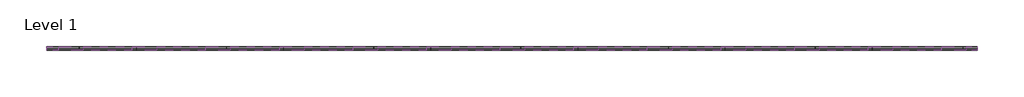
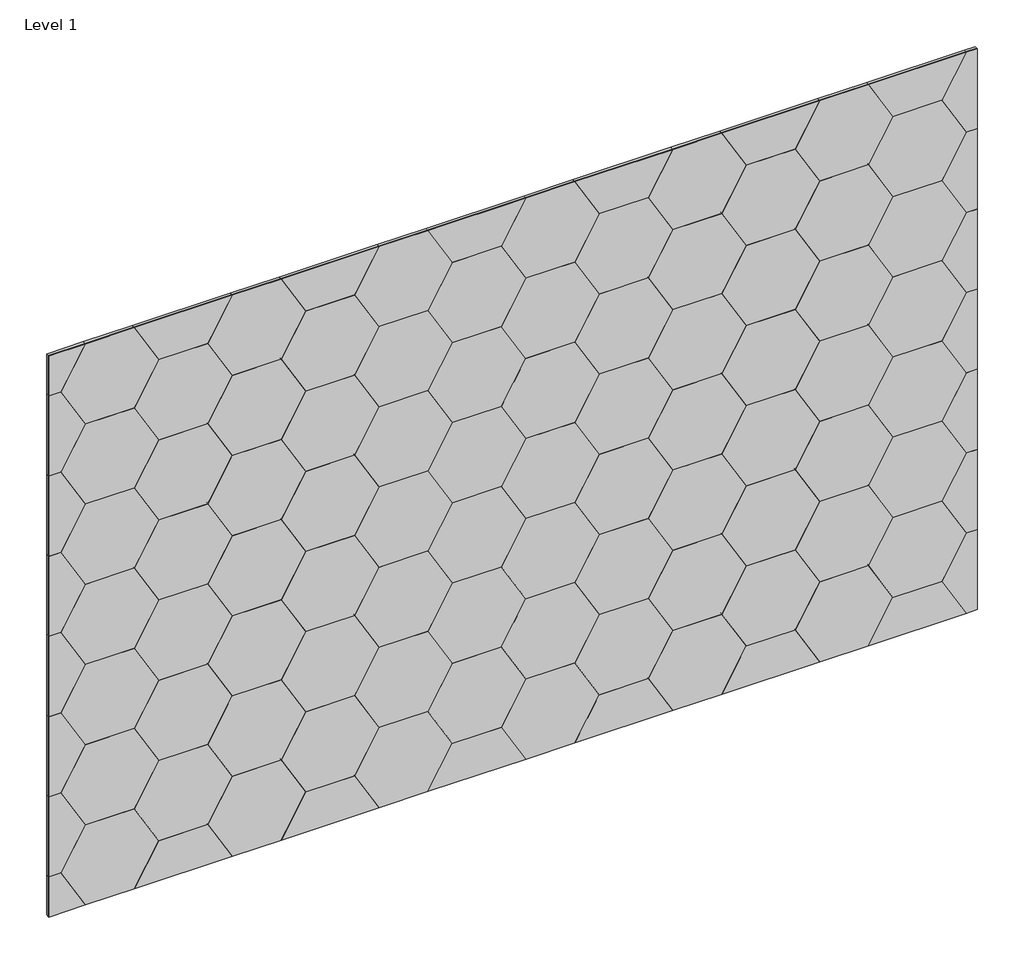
# One storey: 105 proxies.
"""IFC4 building model written with IfcOpenShell, lengths in millimetres."""

import ifcopenshell
import ifcopenshell.guid

model = None  # the IFC model being written
_history = None  # IfcOwnerHistory: only IFC2X3 demands one
_inside = {}  # id of a spatial element -> (the spatial element, [elements in it])
_under = {}  # id of a project, library or spatial element -> (it, [spatial elements below it])
_declared = {}  # id of a project -> (the project, [libraries it declares])
_typed = {}  # id of a type object -> (the type object, [elements of that type])
_made_of = {}  # id of a material, layer set ... -> (it, [elements and type objects made of it])


def new_model(schema):
    """Start an empty IFC model of exactly this schema.

    Asked for "IFC4X3", IfcOpenShell would pick the latest addendum, in which some entities
    have other attributes; the version numbers below select the first issue.
    IFC2X3 requires an IfcOwnerHistory on every rooted entity: one is made here for all.
    """
    global model, _history
    if schema == "IFC4X3":
        model = ifcopenshell.file(schema_version=(4, 3, 0, 0))
    else:
        model = ifcopenshell.file(schema=schema)
    _inside.clear()
    _under.clear()
    _declared.clear()
    _typed.clear()
    _made_of.clear()
    _history = None
    if model.schema == "IFC2X3":
        org = make("IfcOrganization", Name="unknown")
        user = make(
            "IfcPersonAndOrganization",
            ThePerson=make("IfcPerson", FamilyName="unknown"),
            TheOrganization=org,
        )
        app = make(
            "IfcApplication",
            ApplicationDeveloper=org,
            Version="unknown",
            ApplicationFullName="unknown",
            ApplicationIdentifier="unknown",
        )
        _history = make(
            "IfcOwnerHistory",
            OwningUser=user,
            OwningApplication=app,
            ChangeAction="ADDED",
            CreationDate=0,
        )
    return model


def make(cls, **values):
    """One entity of the class cls with the attributes given. An attribute that is None is left unset."""
    return model.create_entity(
        cls, **{name: value for name, value in values.items() if value is not None}
    )


def rooted(cls, **values):
    """An entity with a GlobalId (a new one), such as an element, a storey or a relation."""
    return make(cls, GlobalId=ifcopenshell.guid.new(), OwnerHistory=_history, **values)


def si_unit(unit_type, name, prefix=None):
    """IfcSIUnit, for example si_unit("LENGTHUNIT", "METRE", prefix="MILLI")."""
    return make("IfcSIUnit", UnitType=unit_type, Prefix=prefix, Name=name)


def assignment(units):
    """IfcUnitAssignment: the units of a project."""
    return None if units is None else make("IfcUnitAssignment", Units=units)


def point(xyz):
    """IfcCartesianPoint."""
    return None if xyz is None else make("IfcCartesianPoint", Coordinates=xyz)


def direction(xyz):
    """IfcDirection."""
    return None if xyz is None else make("IfcDirection", DirectionRatios=xyz)


def frame(location, z_axis=None, x_axis=None):
    """IfcAxis2Placement3D, a coordinate frame: its origin and axes. An axis left out is left unset."""
    return make(
        "IfcAxis2Placement3D",
        Location=point(location),
        Axis=direction(z_axis),
        RefDirection=direction(x_axis),
    )


def origin():
    """The frame at (0, 0, 0) with its axes left unset."""
    return frame((0.0, 0.0, 0.0))


def origin_with_axes():
    """The frame at (0, 0, 0) with the z axis (0, 0, 1) and the x axis (1, 0, 0) written out."""
    return frame((0.0, 0.0, 0.0), z_axis=(0.0, 0.0, 1.0), x_axis=(1.0, 0.0, 0.0))


def place(relative_to, where):
    """IfcLocalPlacement: puts the frame where relative to a parent placement (None: the world)."""
    return make(
        "IfcLocalPlacement", PlacementRelTo=relative_to, RelativePlacement=where
    )


def context(
    kind, dimensions, precision=None, world=None, true_north=None, identifier=None
):
    """IfcGeometricRepresentationContext, for example the 3D "Model" context."""
    return make(
        "IfcGeometricRepresentationContext",
        ContextIdentifier=identifier,
        ContextType=kind,
        CoordinateSpaceDimension=dimensions,
        Precision=precision,
        WorldCoordinateSystem=world,
        TrueNorth=true_north,
    )


def project(units=None, contexts=None):
    """IfcProject with its units and contexts."""
    return rooted(
        "IfcProject",
        Name="project",
        RepresentationContexts=contexts,
        UnitsInContext=assignment(units),
    )


def spatial(cls, under=None, at=None, **own):
    """A site, building, storey or space (cls), placed at a placement, below another one or the project."""
    s = rooted(cls, ObjectPlacement=at, **own)
    if under is not None:
        _under.setdefault(under.id(), (under, []))[1].append(s)
    return s


def polyline(points):
    """IfcPolyline through the points."""
    return make("IfcPolyline", Points=[point(p) for p in points])


def outline(outer, holes=None, kind="AREA"):
    """IfcArbitraryClosedProfileDef: a profile drawn as a closed curve; with holes, ...WithVoids."""
    if holes is None:
        return make("IfcArbitraryClosedProfileDef", ProfileType=kind, OuterCurve=outer)
    return make(
        "IfcArbitraryProfileDefWithVoids",
        ProfileType=kind,
        OuterCurve=outer,
        InnerCurves=holes,
    )


def extrude(swept, where, along, depth):
    """IfcExtrudedAreaSolid: the profile swept, set in the frame where, extruded along a direction by depth."""
    return make(
        "IfcExtrudedAreaSolid",
        SweptArea=swept,
        Position=where,
        ExtrudedDirection=direction(along),
        Depth=depth,
    )


def shape(context_of_items, identifier, shape_type, items):
    """IfcShapeRepresentation: the items that make up one representation, for example the "Body"."""
    return make(
        "IfcShapeRepresentation",
        ContextOfItems=context_of_items,
        RepresentationIdentifier=identifier,
        RepresentationType=shape_type,
        Items=items,
    )


def source(mapping_origin, context_of_items, identifier, shape_type, items):
    """IfcRepresentationMap: a shape defined once, which mapped items show again and again."""
    return make(
        "IfcRepresentationMap",
        MappingOrigin=mapping_origin,
        MappedRepresentation=shape(context_of_items, identifier, shape_type, items),
    )


def transform(
    local_origin,
    x_axis=None,
    y_axis=None,
    z_axis=None,
    scale=None,
    scale2=None,
    scale3=None,
    uniform=True,
):
    """IfcCartesianTransformationOperator3D, or its non-uniform kind. x_axis, y_axis, z_axis: its Axis1, 2, 3."""
    if uniform:
        return make(
            "IfcCartesianTransformationOperator3D",
            Axis1=direction(x_axis),
            Axis2=direction(y_axis),
            LocalOrigin=point(local_origin),
            Scale=scale,
            Axis3=direction(z_axis),
        )
    return make(
        "IfcCartesianTransformationOperator3DnonUniform",
        Axis1=direction(x_axis),
        Axis2=direction(y_axis),
        LocalOrigin=point(local_origin),
        Scale=scale,
        Axis3=direction(z_axis),
        Scale2=scale2,
        Scale3=scale3,
    )


def mapped(mapping_source, mapping_target):
    """IfcMappedItem: shows the shape of a source again, moved by a transform."""
    return make(
        "IfcMappedItem", MappingSource=mapping_source, MappingTarget=mapping_target
    )


def made_of(thing, what):
    """Note that an element or type object is made of a material, layer set ...; save() writes the relation."""
    if what is not None:
        _made_of.setdefault(what.id(), (what, []))[1].append(thing)
    return thing


def element(
    cls,
    number,
    at=None,
    inside=None,
    cuts=None,
    type_object=None,
    material=None,
    context=None,
    identifier="Body",
    shape_type=None,
    held_by="IfcProductDefinitionShape",
    body=None,
    shapes=None,
    **own,
):
    """One element of the class cls, such as IfcWall. Its Tag is "e" and its number.

    at: its placement. inside: the storey or other place that contains it. cuts: it is an
    opening in that element (IfcRelVoidsElement). A single representation is given by context,
    identifier, shape_type and body (its items); several are given by shapes. held_by: the class
    of the entity that holds the representations. save() writes the other relations.
    """
    e = rooted(cls, Tag="e%d" % number, ObjectPlacement=at, **own)
    if body is not None:
        shapes = [shape(context, identifier, shape_type, body)]
    if shapes is not None:
        e.Representation = make(held_by, Representations=shapes)
    if inside is not None:
        _inside.setdefault(inside.id(), (inside, []))[1].append(e)
    if cuts is not None:
        rooted(
            "IfcRelVoidsElement", RelatingBuildingElement=cuts, RelatedOpeningElement=e
        )
    if type_object is not None:
        _typed.setdefault(type_object.id(), (type_object, []))[1].append(e)
    return made_of(e, material)


def aggregate(whole, parts):
    """IfcRelAggregates: a whole, such as a stair, and the parts it consists of."""
    return rooted("IfcRelAggregates", RelatingObject=whole, RelatedObjects=parts)


def save(model, path):
    """Write the relations noted so far, then the file.

    IfcRelAggregates (storeys below a building ...), IfcRelContainedInSpatialStructure (elements
    in a storey), IfcRelDefinesByType, IfcRelAssociatesMaterial and IfcRelDeclares: one each for
    every whole, place, type object, material and project.
    """
    for whole, parts in _under.values():
        aggregate(whole, parts)
    for where, things in _inside.values():
        rooted(
            "IfcRelContainedInSpatialStructure",
            RelatedElements=things,
            RelatingStructure=where,
        )
    for kind, things in _typed.values():
        rooted("IfcRelDefinesByType", RelatedObjects=things, RelatingType=kind)
    for what, things in _made_of.values():
        rooted("IfcRelAssociatesMaterial", RelatedObjects=things, RelatingMaterial=what)
    for by, libraries in _declared.values():
        rooted("IfcRelDeclares", RelatingContext=by, RelatedDefinitions=libraries)
    model.write(path)


def hex_block_e6388045(model_context):
    return source(origin(), model_context, "Body", "SweptSolid", [
        extrude(outline(polyline([(87.988181, 152.4), (175.976362, 0.0), (87.988181, -152.4), (44.2024582, -152.4), (44.2024582, 152.4), (87.988181, 152.4)])), frame((0.0, 0.0, 10.0210937), z_axis=(0.0, 0.0, 1.0), x_axis=(1.0, 0.0, 0.0)), (0.0, 0.0, 1.0), 2.9765625),
        extrude(outline(polyline([(175.976362, 0.0), (87.988181, -152.4), (44.2024582, -152.4), (44.2024582, 152.4), (87.988181, 152.4), (175.976362, 0.0)])), origin_with_axes(), (0.0, 0.0, 1.0), 10.0210938),
    ])


def hex_block_89ee5a11(model_context):
    return source(origin(), model_context, "Body", "SweptSolid", [
        extrude(outline(polyline([(-175.976362, 0.0), (-87.988181, 152.4), (87.988181, 152.4), (175.976362, 0.0), (87.988181, -152.4), (-87.988181, -152.4), (-175.976362, 0.0)])), frame((0.0, 0.0, 10.0210937), z_axis=(0.0, 0.0, 1.0), x_axis=(1.0, 0.0, 0.0)), (0.0, 0.0, 1.0), 2.9765625),
        extrude(outline(polyline([(175.976362, 0.0), (87.988181, -152.4), (-87.988181, -152.4), (-175.976362, 0.0), (-87.988181, 152.4), (87.988181, 152.4), (175.976362, 0.0)])), origin_with_axes(), (0.0, 0.0, 1.0), 10.0210938),
    ])


def hex_block_60d278a7(model_context):
    return source(origin(), model_context, "Body", "SweptSolid", [
        extrude(outline(polyline([(175.976362, 0.0), (87.988181, -152.4), (44.2024582, -152.4), (44.2024582, 0.0), (175.976362, 0.0)])), frame((0.0, 0.0, 10.0210937), z_axis=(0.0, 0.0, 1.0), x_axis=(1.0, 0.0, 0.0)), (0.0, 0.0, 1.0), 2.9765625),
        extrude(outline(polyline([(175.976362, 0.0), (87.988181, -152.4), (44.2024582, -152.4), (44.2024582, 0.0), (175.976362, 0.0)])), origin_with_axes(), (0.0, 0.0, 1.0), 10.0210938),
    ])


def hex_block_f7c1a38d(model_context):
    return source(origin(), model_context, "Body", "SweptSolid", [
        extrude(outline(polyline([(175.976362, 0.0), (87.988181, -152.4), (-87.988181, -152.4), (-175.976362, 0.0), (175.976362, 0.0)])), frame((0.0, 0.0, 10.0210937), z_axis=(0.0, 0.0, 1.0), x_axis=(1.0, 0.0, 0.0)), (0.0, 0.0, 1.0), 2.9765625),
        extrude(outline(polyline([(175.976362, 0.0), (87.988181, -152.4), (-87.988181, -152.4), (-175.976362, 0.0), (175.976362, 0.0)])), origin_with_axes(), (0.0, 0.0, 1.0), 10.0210938),
    ])


def hex_block_ed516149(model_context):
    return source(origin(), model_context, "Body", "SweptSolid", [
        extrude(outline(polyline([(-175.976362, 0.0), (-87.988181, 152.4), (87.988181, 152.4), (175.976362, 0.0), (-175.976362, 0.0)])), frame((0.0, 0.0, 10.0210937), z_axis=(0.0, 0.0, 1.0), x_axis=(1.0, 0.0, 0.0)), (0.0, 0.0, 1.0), 2.9765625),
        extrude(outline(polyline([(-175.976362, 0.0), (-87.988181, 152.4), (87.988181, 152.4), (175.976362, 0.0), (-175.976362, 0.0)])), origin_with_axes(), (0.0, 0.0, 1.0), 10.0210938),
    ])


def hex_block_761645ae(model_context):
    return source(origin(), model_context, "Body", "SweptSolid", [
        extrude(outline(polyline([(-175.976362, 0.0), (-87.988181, 152.4), (-48.2369948, 152.4), (-48.2369948, -152.4), (-87.988181, -152.4), (-175.976362, 0.0)])), frame((0.0, 0.0, 10.0210937), z_axis=(0.0, 0.0, 1.0), x_axis=(1.0, 0.0, 0.0)), (0.0, 0.0, 1.0), 2.9765625),
        extrude(outline(polyline([(-87.988181, -152.4), (-175.976362, 0.0), (-87.988181, 152.4), (-48.2369948, 152.4), (-48.2369948, -152.4), (-87.988181, -152.4)])), origin_with_axes(), (0.0, 0.0, 1.0), 10.0210938),
    ])


def hex_block_e8bb8b6b(model_context):
    return source(origin(), model_context, "Body", "SweptSolid", [
        extrude(outline(polyline([(87.988181, 152.4), (175.976362, 0.0), (44.2024582, 0.0), (44.2024582, 152.4), (87.988181, 152.4)])), frame((0.0, 0.0, 10.0210937), z_axis=(0.0, 0.0, 1.0), x_axis=(1.0, 0.0, 0.0)), (0.0, 0.0, 1.0), 2.9765625),
        extrude(outline(polyline([(87.988181, 152.4), (175.976362, 0.0), (44.2024582, 0.0), (44.2024582, 152.4), (87.988181, 152.4)])), origin_with_axes(), (0.0, 0.0, 1.0), 10.0210938),
    ])


model = new_model("IFC4")

# Units and contexts
model_context = context("Model", 3, world=origin())
ifc_project = project(units=[si_unit("LENGTHUNIT", "METRE", prefix="MILLI")], contexts=[model_context])

# Site, building, storey
site = spatial("IfcSite", under=ifc_project)
building = spatial("IfcBuilding", under=site)
storey = spatial("IfcBuildingStorey", under=building, Name="Level 1", Elevation=0.0)

# Proxies
placement = place(None, origin())
hex_block_shape = hex_block_e6388045(model_context)
element("IfcBuildingElementProxy", 1, Name="FilzFelt_Hex_Block : Hex Block", ObjectType="FilzFelt_Hex_Block : Hex Block", at=placement, inside=storey, context=model_context, shape_type="MappedRepresentation", body=[
    mapped(hex_block_shape, transform((28831.2237025, 4010.4660665, 1480.8), x_axis=(1.0, 0.0, 0.0), y_axis=(0.0, 0.0, 1.0), z_axis=(0.0, -1.0, 0.0))),
])
element("IfcBuildingElementProxy", 2, Name="FilzFelt_Hex_Block : Hex Block", ObjectType="FilzFelt_Hex_Block : Hex Block", at=placement, inside=storey, context=model_context, shape_type="MappedRepresentation", body=[
    mapped(hex_block_shape, transform((28831.2237025, 4010.4660665, 2395.2), x_axis=(1.0, 0.0, 0.0), y_axis=(0.0, 0.0, 1.0), z_axis=(0.0, -1.0, 0.0))),
])
element("IfcBuildingElementProxy", 3, Name="FilzFelt_Hex_Block : Hex Block", ObjectType="FilzFelt_Hex_Block : Hex Block", at=placement, inside=storey, context=model_context, shape_type="MappedRepresentation", body=[
    mapped(hex_block_shape, transform((28831.2237025, 4010.4660665, 871.2), x_axis=(1.0, 0.0, 0.0), y_axis=(0.0, 0.0, 1.0), z_axis=(0.0, -1.0, 0.0))),
])
element("IfcBuildingElementProxy", 4, Name="FilzFelt_Hex_Block : Hex Block", ObjectType="FilzFelt_Hex_Block : Hex Block", at=placement, inside=storey, context=model_context, shape_type="MappedRepresentation", body=[
    mapped(hex_block_shape, transform((28831.2237025, 4010.4660665, 1785.6), x_axis=(1.0, 0.0, 0.0), y_axis=(0.0, 0.0, 1.0), z_axis=(0.0, -1.0, 0.0))),
])
element("IfcBuildingElementProxy", 5, Name="FilzFelt_Hex_Block : Hex Block", ObjectType="FilzFelt_Hex_Block : Hex Block", at=placement, inside=storey, context=model_context, shape_type="MappedRepresentation", body=[
    mapped(hex_block_shape, transform((28831.2237025, 4010.4660665, 1176.0), x_axis=(1.0, 0.0, 0.0), y_axis=(0.0, 0.0, 1.0), z_axis=(0.0, -1.0, 0.0))),
])
element("IfcBuildingElementProxy", 6, Name="FilzFelt_Hex_Block : Hex Block", ObjectType="FilzFelt_Hex_Block : Hex Block", at=placement, inside=storey, context=model_context, shape_type="MappedRepresentation", body=[
    mapped(hex_block_shape, transform((28831.2237025, 4010.4660665, 2090.4), x_axis=(1.0, 0.0, 0.0), y_axis=(0.0, 0.0, 1.0), z_axis=(0.0, -1.0, 0.0))),
])
hex_block_2_shape = hex_block_89ee5a11(model_context)
element("IfcBuildingElementProxy", 7, Name="FilzFelt_Hex_Block : Hex Block", ObjectType="FilzFelt_Hex_Block : Hex Block", at=placement, inside=storey, context=model_context, shape_type="MappedRepresentation", body=[
    mapped(hex_block_2_shape, transform((29095.1882456, 4010.4660665, 1023.6), x_axis=(1.0, 0.0, 0.0), y_axis=(0.0, 0.0, 1.0), z_axis=(0.0, -1.0, 0.0))),
])
element("IfcBuildingElementProxy", 8, Name="FilzFelt_Hex_Block : Hex Block", ObjectType="FilzFelt_Hex_Block : Hex Block", at=placement, inside=storey, context=model_context, shape_type="MappedRepresentation", body=[
    mapped(hex_block_2_shape, transform((29095.1882456, 4010.4660665, 1328.4), x_axis=(1.0, 0.0, 0.0), y_axis=(0.0, 0.0, 1.0), z_axis=(0.0, -1.0, 0.0))),
])
element("IfcBuildingElementProxy", 9, Name="FilzFelt_Hex_Block : Hex Block", ObjectType="FilzFelt_Hex_Block : Hex Block", at=placement, inside=storey, context=model_context, shape_type="MappedRepresentation", body=[
    mapped(hex_block_2_shape, transform((29095.1882456, 4010.4660665, 1938.0), x_axis=(1.0, 0.0, 0.0), y_axis=(0.0, 0.0, 1.0), z_axis=(0.0, -1.0, 0.0))),
])
element("IfcBuildingElementProxy", 10, Name="FilzFelt_Hex_Block : Hex Block", ObjectType="FilzFelt_Hex_Block : Hex Block", at=placement, inside=storey, context=model_context, shape_type="MappedRepresentation", body=[
    mapped(hex_block_2_shape, transform((29359.1527887, 4010.4660665, 1785.6), x_axis=(1.0, 0.0, 0.0), y_axis=(0.0, 0.0, 1.0), z_axis=(0.0, -1.0, 0.0))),
])
element("IfcBuildingElementProxy", 11, Name="FilzFelt_Hex_Block : Hex Block", ObjectType="FilzFelt_Hex_Block : Hex Block", at=placement, inside=storey, context=model_context, shape_type="MappedRepresentation", body=[
    mapped(hex_block_2_shape, transform((29623.1173317, 4010.4660665, 1633.2), x_axis=(1.0, 0.0, 0.0), y_axis=(0.0, 0.0, 1.0), z_axis=(0.0, -1.0, 0.0))),
])
element("IfcBuildingElementProxy", 12, Name="FilzFelt_Hex_Block : Hex Block", ObjectType="FilzFelt_Hex_Block : Hex Block", at=placement, inside=storey, context=model_context, shape_type="MappedRepresentation", body=[
    mapped(hex_block_2_shape, transform((29887.0818748, 4010.4660665, 1480.8), x_axis=(1.0, 0.0, 0.0), y_axis=(0.0, 0.0, 1.0), z_axis=(0.0, -1.0, 0.0))),
])
element("IfcBuildingElementProxy", 13, Name="FilzFelt_Hex_Block : Hex Block", ObjectType="FilzFelt_Hex_Block : Hex Block", at=placement, inside=storey, context=model_context, shape_type="MappedRepresentation", body=[
    mapped(hex_block_2_shape, transform((30151.0464179, 4010.4660665, 1023.6), x_axis=(1.0, 0.0, 0.0), y_axis=(0.0, 0.0, 1.0), z_axis=(0.0, -1.0, 0.0))),
])
element("IfcBuildingElementProxy", 14, Name="FilzFelt_Hex_Block : Hex Block", ObjectType="FilzFelt_Hex_Block : Hex Block", at=placement, inside=storey, context=model_context, shape_type="MappedRepresentation", body=[
    mapped(hex_block_2_shape, transform((30151.0464179, 4010.4660665, 1328.4), x_axis=(1.0, 0.0, 0.0), y_axis=(0.0, 0.0, 1.0), z_axis=(0.0, -1.0, 0.0))),
])
element("IfcBuildingElementProxy", 15, Name="FilzFelt_Hex_Block : Hex Block", ObjectType="FilzFelt_Hex_Block : Hex Block", at=placement, inside=storey, context=model_context, shape_type="MappedRepresentation", body=[
    mapped(hex_block_2_shape, transform((30151.0464179, 4010.4660665, 1633.2), x_axis=(1.0, 0.0, 0.0), y_axis=(0.0, 0.0, 1.0), z_axis=(0.0, -1.0, 0.0))),
])
element("IfcBuildingElementProxy", 16, Name="FilzFelt_Hex_Block : Hex Block", ObjectType="FilzFelt_Hex_Block : Hex Block", at=placement, inside=storey, context=model_context, shape_type="MappedRepresentation", body=[
    mapped(hex_block_2_shape, transform((30151.0464179, 4010.4660665, 1938.0), x_axis=(1.0, 0.0, 0.0), y_axis=(0.0, 0.0, 1.0), z_axis=(0.0, -1.0, 0.0))),
])
element("IfcBuildingElementProxy", 17, Name="FilzFelt_Hex_Block : Hex Block", ObjectType="FilzFelt_Hex_Block : Hex Block", at=placement, inside=storey, context=model_context, shape_type="MappedRepresentation", body=[
    mapped(hex_block_2_shape, transform((30415.010961, 4010.4660665, 1480.8), x_axis=(1.0, 0.0, 0.0), y_axis=(0.0, 0.0, 1.0), z_axis=(0.0, -1.0, 0.0))),
])
element("IfcBuildingElementProxy", 18, Name="FilzFelt_Hex_Block : Hex Block", ObjectType="FilzFelt_Hex_Block : Hex Block", at=placement, inside=storey, context=model_context, shape_type="MappedRepresentation", body=[
    mapped(hex_block_2_shape, transform((30678.975504, 4010.4660665, 1633.2), x_axis=(1.0, 0.0, 0.0), y_axis=(0.0, 0.0, 1.0), z_axis=(0.0, -1.0, 0.0))),
])
element("IfcBuildingElementProxy", 19, Name="FilzFelt_Hex_Block : Hex Block", ObjectType="FilzFelt_Hex_Block : Hex Block", at=placement, inside=storey, context=model_context, shape_type="MappedRepresentation", body=[
    mapped(hex_block_2_shape, transform((30678.975504, 4010.4660665, 1938.0), x_axis=(1.0, 0.0, 0.0), y_axis=(0.0, 0.0, 1.0), z_axis=(0.0, -1.0, 0.0))),
])
element("IfcBuildingElementProxy", 20, Name="FilzFelt_Hex_Block : Hex Block", ObjectType="FilzFelt_Hex_Block : Hex Block", at=placement, inside=storey, context=model_context, shape_type="MappedRepresentation", body=[
    mapped(hex_block_2_shape, transform((30942.9400471, 4010.4660665, 1480.8), x_axis=(1.0, 0.0, 0.0), y_axis=(0.0, 0.0, 1.0), z_axis=(0.0, -1.0, 0.0))),
])
element("IfcBuildingElementProxy", 21, Name="FilzFelt_Hex_Block : Hex Block", ObjectType="FilzFelt_Hex_Block : Hex Block", at=placement, inside=storey, context=model_context, shape_type="MappedRepresentation", body=[
    mapped(hex_block_2_shape, transform((30942.9400471, 4010.4660665, 1785.6), x_axis=(1.0, 0.0, 0.0), y_axis=(0.0, 0.0, 1.0), z_axis=(0.0, -1.0, 0.0))),
])
element("IfcBuildingElementProxy", 22, Name="FilzFelt_Hex_Block : Hex Block", ObjectType="FilzFelt_Hex_Block : Hex Block", at=placement, inside=storey, context=model_context, shape_type="MappedRepresentation", body=[
    mapped(hex_block_2_shape, transform((31206.9045902, 4010.4660665, 1023.6), x_axis=(1.0, 0.0, 0.0), y_axis=(0.0, 0.0, 1.0), z_axis=(0.0, -1.0, 0.0))),
])
element("IfcBuildingElementProxy", 23, Name="FilzFelt_Hex_Block : Hex Block", ObjectType="FilzFelt_Hex_Block : Hex Block", at=placement, inside=storey, context=model_context, shape_type="MappedRepresentation", body=[
    mapped(hex_block_2_shape, transform((31206.9045902, 4010.4660665, 1633.2), x_axis=(1.0, 0.0, 0.0), y_axis=(0.0, 0.0, 1.0), z_axis=(0.0, -1.0, 0.0))),
])
element("IfcBuildingElementProxy", 24, Name="FilzFelt_Hex_Block : Hex Block", ObjectType="FilzFelt_Hex_Block : Hex Block", at=placement, inside=storey, context=model_context, shape_type="MappedRepresentation", body=[
    mapped(hex_block_2_shape, transform((29095.1882456, 4010.4660665, 2547.6), x_axis=(1.0, 0.0, 0.0), y_axis=(0.0, 0.0, 1.0), z_axis=(0.0, -1.0, 0.0))),
])
element("IfcBuildingElementProxy", 25, Name="FilzFelt_Hex_Block : Hex Block", ObjectType="FilzFelt_Hex_Block : Hex Block", at=placement, inside=storey, context=model_context, shape_type="MappedRepresentation", body=[
    mapped(hex_block_2_shape, transform((29359.1527887, 4010.4660665, 2395.2), x_axis=(1.0, 0.0, 0.0), y_axis=(0.0, 0.0, 1.0), z_axis=(0.0, -1.0, 0.0))),
])
element("IfcBuildingElementProxy", 26, Name="FilzFelt_Hex_Block : Hex Block", ObjectType="FilzFelt_Hex_Block : Hex Block", at=placement, inside=storey, context=model_context, shape_type="MappedRepresentation", body=[
    mapped(hex_block_2_shape, transform((29887.0818748, 4010.4660665, 2395.2), x_axis=(1.0, 0.0, 0.0), y_axis=(0.0, 0.0, 1.0), z_axis=(0.0, -1.0, 0.0))),
])
element("IfcBuildingElementProxy", 27, Name="FilzFelt_Hex_Block : Hex Block", ObjectType="FilzFelt_Hex_Block : Hex Block", at=placement, inside=storey, context=model_context, shape_type="MappedRepresentation", body=[
    mapped(hex_block_2_shape, transform((30942.9400471, 4010.4660665, 2395.2), x_axis=(1.0, 0.0, 0.0), y_axis=(0.0, 0.0, 1.0), z_axis=(0.0, -1.0, 0.0))),
])
element("IfcBuildingElementProxy", 28, Name="FilzFelt_Hex_Block : Hex Block", ObjectType="FilzFelt_Hex_Block : Hex Block", at=placement, inside=storey, context=model_context, shape_type="MappedRepresentation", body=[
    mapped(hex_block_2_shape, transform((31206.9045902, 4010.4660665, 2547.6), x_axis=(1.0, 0.0, 0.0), y_axis=(0.0, 0.0, 1.0), z_axis=(0.0, -1.0, 0.0))),
])
element("IfcBuildingElementProxy", 29, Name="FilzFelt_Hex_Block : Hex Block", ObjectType="FilzFelt_Hex_Block : Hex Block", at=placement, inside=storey, context=model_context, shape_type="MappedRepresentation", body=[
    mapped(hex_block_2_shape, transform((31470.8691332, 4010.4660665, 2395.2), x_axis=(1.0, 0.0, 0.0), y_axis=(0.0, 0.0, 1.0), z_axis=(0.0, -1.0, 0.0))),
])
element("IfcBuildingElementProxy", 30, Name="FilzFelt_Hex_Block : Hex Block", ObjectType="FilzFelt_Hex_Block : Hex Block", at=placement, inside=storey, context=model_context, shape_type="MappedRepresentation", body=[
    mapped(hex_block_2_shape, transform((30415.010961, 4010.4660665, 1176.0), x_axis=(1.0, 0.0, 0.0), y_axis=(0.0, 0.0, 1.0), z_axis=(0.0, -1.0, 0.0))),
])
element("IfcBuildingElementProxy", 31, Name="FilzFelt_Hex_Block : Hex Block", ObjectType="FilzFelt_Hex_Block : Hex Block", at=placement, inside=storey, context=model_context, shape_type="MappedRepresentation", body=[
    mapped(hex_block_2_shape, transform((30942.9400471, 4010.4660665, 1176.0), x_axis=(1.0, 0.0, 0.0), y_axis=(0.0, 0.0, 1.0), z_axis=(0.0, -1.0, 0.0))),
])
element("IfcBuildingElementProxy", 32, Name="FilzFelt_Hex_Block : Hex Block", ObjectType="FilzFelt_Hex_Block : Hex Block", at=placement, inside=storey, context=model_context, shape_type="MappedRepresentation", body=[
    mapped(hex_block_2_shape, transform((31470.8691332, 4010.4660665, 1176.0), x_axis=(1.0, 0.0, 0.0), y_axis=(0.0, 0.0, 1.0), z_axis=(0.0, -1.0, 0.0))),
])
element("IfcBuildingElementProxy", 33, Name="FilzFelt_Hex_Block : Hex Block", ObjectType="FilzFelt_Hex_Block : Hex Block", at=placement, inside=storey, context=model_context, shape_type="MappedRepresentation", body=[
    mapped(hex_block_2_shape, transform((29359.1527887, 4010.4660665, 2090.4), x_axis=(1.0, 0.0, 0.0), y_axis=(0.0, 0.0, 1.0), z_axis=(0.0, -1.0, 0.0))),
])
element("IfcBuildingElementProxy", 34, Name="FilzFelt_Hex_Block : Hex Block", ObjectType="FilzFelt_Hex_Block : Hex Block", at=placement, inside=storey, context=model_context, shape_type="MappedRepresentation", body=[
    mapped(hex_block_2_shape, transform((29887.0818748, 4010.4660665, 2090.4), x_axis=(1.0, 0.0, 0.0), y_axis=(0.0, 0.0, 1.0), z_axis=(0.0, -1.0, 0.0))),
])
element("IfcBuildingElementProxy", 35, Name="FilzFelt_Hex_Block : Hex Block", ObjectType="FilzFelt_Hex_Block : Hex Block", at=placement, inside=storey, context=model_context, shape_type="MappedRepresentation", body=[
    mapped(hex_block_2_shape, transform((30415.010961, 4010.4660665, 2090.4), x_axis=(1.0, 0.0, 0.0), y_axis=(0.0, 0.0, 1.0), z_axis=(0.0, -1.0, 0.0))),
])
element("IfcBuildingElementProxy", 36, Name="FilzFelt_Hex_Block : Hex Block", ObjectType="FilzFelt_Hex_Block : Hex Block", at=placement, inside=storey, context=model_context, shape_type="MappedRepresentation", body=[
    mapped(hex_block_2_shape, transform((30942.9400471, 4010.4660665, 2090.4), x_axis=(1.0, 0.0, 0.0), y_axis=(0.0, 0.0, 1.0), z_axis=(0.0, -1.0, 0.0))),
])
element("IfcBuildingElementProxy", 37, Name="FilzFelt_Hex_Block : Hex Block", ObjectType="FilzFelt_Hex_Block : Hex Block", at=placement, inside=storey, context=model_context, shape_type="MappedRepresentation", body=[
    mapped(hex_block_2_shape, transform((31470.8691332, 4010.4660665, 2090.4), x_axis=(1.0, 0.0, 0.0), y_axis=(0.0, 0.0, 1.0), z_axis=(0.0, -1.0, 0.0))),
])
element("IfcBuildingElementProxy", 38, Name="FilzFelt_Hex_Block : Hex Block", ObjectType="FilzFelt_Hex_Block : Hex Block", at=placement, inside=storey, context=model_context, shape_type="MappedRepresentation", body=[
    mapped(hex_block_2_shape, transform((29359.1527887, 4010.4660665, 871.2), x_axis=(1.0, 0.0, 0.0), y_axis=(0.0, 0.0, 1.0), z_axis=(0.0, -1.0, 0.0))),
])
element("IfcBuildingElementProxy", 39, Name="FilzFelt_Hex_Block : Hex Block", ObjectType="FilzFelt_Hex_Block : Hex Block", at=placement, inside=storey, context=model_context, shape_type="MappedRepresentation", body=[
    mapped(hex_block_2_shape, transform((29887.0818748, 4010.4660665, 871.2), x_axis=(1.0, 0.0, 0.0), y_axis=(0.0, 0.0, 1.0), z_axis=(0.0, -1.0, 0.0))),
])
element("IfcBuildingElementProxy", 40, Name="FilzFelt_Hex_Block : Hex Block", ObjectType="FilzFelt_Hex_Block : Hex Block", at=placement, inside=storey, context=model_context, shape_type="MappedRepresentation", body=[
    mapped(hex_block_2_shape, transform((30942.9400471, 4010.4660665, 871.2), x_axis=(1.0, 0.0, 0.0), y_axis=(0.0, 0.0, 1.0), z_axis=(0.0, -1.0, 0.0))),
])
element("IfcBuildingElementProxy", 41, Name="FilzFelt_Hex_Block : Hex Block", ObjectType="FilzFelt_Hex_Block : Hex Block", at=placement, inside=storey, context=model_context, shape_type="MappedRepresentation", body=[
    mapped(hex_block_2_shape, transform((31734.8336763, 4010.4660665, 1633.2), x_axis=(1.0, 0.0, 0.0), y_axis=(0.0, 0.0, 1.0), z_axis=(0.0, -1.0, 0.0))),
])
element("IfcBuildingElementProxy", 42, Name="FilzFelt_Hex_Block : Hex Block", ObjectType="FilzFelt_Hex_Block : Hex Block", at=placement, inside=storey, context=model_context, shape_type="MappedRepresentation", body=[
    mapped(hex_block_2_shape, transform((31734.8336763, 4010.4660665, 1938.0), x_axis=(1.0, 0.0, 0.0), y_axis=(0.0, 0.0, 1.0), z_axis=(0.0, -1.0, 0.0))),
])
element("IfcBuildingElementProxy", 43, Name="FilzFelt_Hex_Block : Hex Block", ObjectType="FilzFelt_Hex_Block : Hex Block", at=placement, inside=storey, context=model_context, shape_type="MappedRepresentation", body=[
    mapped(hex_block_2_shape, transform((31998.7982194, 4010.4660665, 1785.6), x_axis=(1.0, 0.0, 0.0), y_axis=(0.0, 0.0, 1.0), z_axis=(0.0, -1.0, 0.0))),
])
element("IfcBuildingElementProxy", 44, Name="FilzFelt_Hex_Block : Hex Block", ObjectType="FilzFelt_Hex_Block : Hex Block", at=placement, inside=storey, context=model_context, shape_type="MappedRepresentation", body=[
    mapped(hex_block_2_shape, transform((31998.7982194, 4010.4660665, 2395.2), x_axis=(1.0, 0.0, 0.0), y_axis=(0.0, 0.0, 1.0), z_axis=(0.0, -1.0, 0.0))),
])
element("IfcBuildingElementProxy", 45, Name="FilzFelt_Hex_Block : Hex Block", ObjectType="FilzFelt_Hex_Block : Hex Block", at=placement, inside=storey, context=model_context, shape_type="MappedRepresentation", body=[
    mapped(hex_block_2_shape, transform((31998.7982194, 4010.4660665, 1176.0), x_axis=(1.0, 0.0, 0.0), y_axis=(0.0, 0.0, 1.0), z_axis=(0.0, -1.0, 0.0))),
])
element("IfcBuildingElementProxy", 46, Name="FilzFelt_Hex_Block : Hex Block", ObjectType="FilzFelt_Hex_Block : Hex Block", at=placement, inside=storey, context=model_context, shape_type="MappedRepresentation", body=[
    mapped(hex_block_2_shape, transform((31998.7982194, 4010.4660665, 871.2), x_axis=(1.0, 0.0, 0.0), y_axis=(0.0, 0.0, 1.0), z_axis=(0.0, -1.0, 0.0))),
])
element("IfcBuildingElementProxy", 47, Name="FilzFelt_Hex_Block : Hex Block", ObjectType="FilzFelt_Hex_Block : Hex Block", at=placement, inside=storey, context=model_context, shape_type="MappedRepresentation", body=[
    mapped(hex_block_2_shape, transform((30151.0464179, 4010.4660665, 718.8), x_axis=(1.0, 0.0, 0.0), y_axis=(0.0, 0.0, 1.0), z_axis=(0.0, -1.0, 0.0))),
])
element("IfcBuildingElementProxy", 48, Name="FilzFelt_Hex_Block : Hex Block", ObjectType="FilzFelt_Hex_Block : Hex Block", at=placement, inside=storey, context=model_context, shape_type="MappedRepresentation", body=[
    mapped(hex_block_2_shape, transform((31734.8336763, 4010.4660665, 718.8), x_axis=(1.0, 0.0, 0.0), y_axis=(0.0, 0.0, 1.0), z_axis=(0.0, -1.0, 0.0))),
])
element("IfcBuildingElementProxy", 49, Name="FilzFelt_Hex_Block : Hex Block", ObjectType="FilzFelt_Hex_Block : Hex Block", at=placement, inside=storey, context=model_context, shape_type="MappedRepresentation", body=[
    mapped(hex_block_2_shape, transform((29095.1882456, 4010.4660665, 1633.2), x_axis=(1.0, 0.0, 0.0), y_axis=(0.0, 0.0, 1.0), z_axis=(0.0, -1.0, 0.0))),
])
element("IfcBuildingElementProxy", 50, Name="FilzFelt_Hex_Block : Hex Block", ObjectType="FilzFelt_Hex_Block : Hex Block", at=placement, inside=storey, context=model_context, shape_type="MappedRepresentation", body=[
    mapped(hex_block_2_shape, transform((29359.1527887, 4010.4660665, 1480.8), x_axis=(1.0, 0.0, 0.0), y_axis=(0.0, 0.0, 1.0), z_axis=(0.0, -1.0, 0.0))),
])
element("IfcBuildingElementProxy", 51, Name="FilzFelt_Hex_Block : Hex Block", ObjectType="FilzFelt_Hex_Block : Hex Block", at=placement, inside=storey, context=model_context, shape_type="MappedRepresentation", body=[
    mapped(hex_block_2_shape, transform((29623.1173317, 4010.4660665, 1023.6), x_axis=(1.0, 0.0, 0.0), y_axis=(0.0, 0.0, 1.0), z_axis=(0.0, -1.0, 0.0))),
])
element("IfcBuildingElementProxy", 52, Name="FilzFelt_Hex_Block : Hex Block", ObjectType="FilzFelt_Hex_Block : Hex Block", at=placement, inside=storey, context=model_context, shape_type="MappedRepresentation", body=[
    mapped(hex_block_2_shape, transform((29623.1173317, 4010.4660665, 1328.4), x_axis=(1.0, 0.0, 0.0), y_axis=(0.0, 0.0, 1.0), z_axis=(0.0, -1.0, 0.0))),
])
element("IfcBuildingElementProxy", 53, Name="FilzFelt_Hex_Block : Hex Block", ObjectType="FilzFelt_Hex_Block : Hex Block", at=placement, inside=storey, context=model_context, shape_type="MappedRepresentation", body=[
    mapped(hex_block_2_shape, transform((29623.1173317, 4010.4660665, 1938.0), x_axis=(1.0, 0.0, 0.0), y_axis=(0.0, 0.0, 1.0), z_axis=(0.0, -1.0, 0.0))),
])
element("IfcBuildingElementProxy", 54, Name="FilzFelt_Hex_Block : Hex Block", ObjectType="FilzFelt_Hex_Block : Hex Block", at=placement, inside=storey, context=model_context, shape_type="MappedRepresentation", body=[
    mapped(hex_block_2_shape, transform((29887.0818748, 4010.4660665, 1785.6), x_axis=(1.0, 0.0, 0.0), y_axis=(0.0, 0.0, 1.0), z_axis=(0.0, -1.0, 0.0))),
])
element("IfcBuildingElementProxy", 55, Name="FilzFelt_Hex_Block : Hex Block", ObjectType="FilzFelt_Hex_Block : Hex Block", at=placement, inside=storey, context=model_context, shape_type="MappedRepresentation", body=[
    mapped(hex_block_2_shape, transform((30415.010961, 4010.4660665, 1785.6), x_axis=(1.0, 0.0, 0.0), y_axis=(0.0, 0.0, 1.0), z_axis=(0.0, -1.0, 0.0))),
])
element("IfcBuildingElementProxy", 56, Name="FilzFelt_Hex_Block : Hex Block", ObjectType="FilzFelt_Hex_Block : Hex Block", at=placement, inside=storey, context=model_context, shape_type="MappedRepresentation", body=[
    mapped(hex_block_2_shape, transform((30678.975504, 4010.4660665, 1023.6), x_axis=(1.0, 0.0, 0.0), y_axis=(0.0, 0.0, 1.0), z_axis=(0.0, -1.0, 0.0))),
])
element("IfcBuildingElementProxy", 57, Name="FilzFelt_Hex_Block : Hex Block", ObjectType="FilzFelt_Hex_Block : Hex Block", at=placement, inside=storey, context=model_context, shape_type="MappedRepresentation", body=[
    mapped(hex_block_2_shape, transform((30678.975504, 4010.4660665, 1328.4), x_axis=(1.0, 0.0, 0.0), y_axis=(0.0, 0.0, 1.0), z_axis=(0.0, -1.0, 0.0))),
])
element("IfcBuildingElementProxy", 58, Name="FilzFelt_Hex_Block : Hex Block", ObjectType="FilzFelt_Hex_Block : Hex Block", at=placement, inside=storey, context=model_context, shape_type="MappedRepresentation", body=[
    mapped(hex_block_2_shape, transform((31206.9045902, 4010.4660665, 1328.4), x_axis=(1.0, 0.0, 0.0), y_axis=(0.0, 0.0, 1.0), z_axis=(0.0, -1.0, 0.0))),
])
element("IfcBuildingElementProxy", 59, Name="FilzFelt_Hex_Block : Hex Block", ObjectType="FilzFelt_Hex_Block : Hex Block", at=placement, inside=storey, context=model_context, shape_type="MappedRepresentation", body=[
    mapped(hex_block_2_shape, transform((31206.9045902, 4010.4660665, 1938.0), x_axis=(1.0, 0.0, 0.0), y_axis=(0.0, 0.0, 1.0), z_axis=(0.0, -1.0, 0.0))),
])
element("IfcBuildingElementProxy", 60, Name="FilzFelt_Hex_Block : Hex Block", ObjectType="FilzFelt_Hex_Block : Hex Block", at=placement, inside=storey, context=model_context, shape_type="MappedRepresentation", body=[
    mapped(hex_block_2_shape, transform((31470.8691332, 4010.4660665, 1480.8), x_axis=(1.0, 0.0, 0.0), y_axis=(0.0, 0.0, 1.0), z_axis=(0.0, -1.0, 0.0))),
])
element("IfcBuildingElementProxy", 61, Name="FilzFelt_Hex_Block : Hex Block", ObjectType="FilzFelt_Hex_Block : Hex Block", at=placement, inside=storey, context=model_context, shape_type="MappedRepresentation", body=[
    mapped(hex_block_2_shape, transform((31470.8691332, 4010.4660665, 1785.6), x_axis=(1.0, 0.0, 0.0), y_axis=(0.0, 0.0, 1.0), z_axis=(0.0, -1.0, 0.0))),
])
element("IfcBuildingElementProxy", 62, Name="FilzFelt_Hex_Block : Hex Block", ObjectType="FilzFelt_Hex_Block : Hex Block", at=placement, inside=storey, context=model_context, shape_type="MappedRepresentation", body=[
    mapped(hex_block_2_shape, transform((29095.1882456, 4010.4660665, 2242.8), x_axis=(1.0, 0.0, 0.0), y_axis=(0.0, 0.0, 1.0), z_axis=(0.0, -1.0, 0.0))),
])
element("IfcBuildingElementProxy", 63, Name="FilzFelt_Hex_Block : Hex Block", ObjectType="FilzFelt_Hex_Block : Hex Block", at=placement, inside=storey, context=model_context, shape_type="MappedRepresentation", body=[
    mapped(hex_block_2_shape, transform((29623.1173317, 4010.4660665, 2242.8), x_axis=(1.0, 0.0, 0.0), y_axis=(0.0, 0.0, 1.0), z_axis=(0.0, -1.0, 0.0))),
])
element("IfcBuildingElementProxy", 64, Name="FilzFelt_Hex_Block : Hex Block", ObjectType="FilzFelt_Hex_Block : Hex Block", at=placement, inside=storey, context=model_context, shape_type="MappedRepresentation", body=[
    mapped(hex_block_2_shape, transform((29623.1173317, 4010.4660665, 2547.6), x_axis=(1.0, 0.0, 0.0), y_axis=(0.0, 0.0, 1.0), z_axis=(0.0, -1.0, 0.0))),
])
element("IfcBuildingElementProxy", 65, Name="FilzFelt_Hex_Block : Hex Block", ObjectType="FilzFelt_Hex_Block : Hex Block", at=placement, inside=storey, context=model_context, shape_type="MappedRepresentation", body=[
    mapped(hex_block_2_shape, transform((30151.0464179, 4010.4660665, 2242.8), x_axis=(1.0, 0.0, 0.0), y_axis=(0.0, 0.0, 1.0), z_axis=(0.0, -1.0, 0.0))),
])
element("IfcBuildingElementProxy", 66, Name="FilzFelt_Hex_Block : Hex Block", ObjectType="FilzFelt_Hex_Block : Hex Block", at=placement, inside=storey, context=model_context, shape_type="MappedRepresentation", body=[
    mapped(hex_block_2_shape, transform((30151.0464179, 4010.4660665, 2547.6), x_axis=(1.0, 0.0, 0.0), y_axis=(0.0, 0.0, 1.0), z_axis=(0.0, -1.0, 0.0))),
])
element("IfcBuildingElementProxy", 67, Name="FilzFelt_Hex_Block : Hex Block", ObjectType="FilzFelt_Hex_Block : Hex Block", at=placement, inside=storey, context=model_context, shape_type="MappedRepresentation", body=[
    mapped(hex_block_2_shape, transform((30415.010961, 4010.4660665, 2395.2), x_axis=(1.0, 0.0, 0.0), y_axis=(0.0, 0.0, 1.0), z_axis=(0.0, -1.0, 0.0))),
])
element("IfcBuildingElementProxy", 68, Name="FilzFelt_Hex_Block : Hex Block", ObjectType="FilzFelt_Hex_Block : Hex Block", at=placement, inside=storey, context=model_context, shape_type="MappedRepresentation", body=[
    mapped(hex_block_2_shape, transform((30678.975504, 4010.4660665, 2242.8), x_axis=(1.0, 0.0, 0.0), y_axis=(0.0, 0.0, 1.0), z_axis=(0.0, -1.0, 0.0))),
])
element("IfcBuildingElementProxy", 69, Name="FilzFelt_Hex_Block : Hex Block", ObjectType="FilzFelt_Hex_Block : Hex Block", at=placement, inside=storey, context=model_context, shape_type="MappedRepresentation", body=[
    mapped(hex_block_2_shape, transform((30678.975504, 4010.4660665, 2547.6), x_axis=(1.0, 0.0, 0.0), y_axis=(0.0, 0.0, 1.0), z_axis=(0.0, -1.0, 0.0))),
])
element("IfcBuildingElementProxy", 70, Name="FilzFelt_Hex_Block : Hex Block", ObjectType="FilzFelt_Hex_Block : Hex Block", at=placement, inside=storey, context=model_context, shape_type="MappedRepresentation", body=[
    mapped(hex_block_2_shape, transform((31206.9045902, 4010.4660665, 2242.8), x_axis=(1.0, 0.0, 0.0), y_axis=(0.0, 0.0, 1.0), z_axis=(0.0, -1.0, 0.0))),
])
element("IfcBuildingElementProxy", 71, Name="FilzFelt_Hex_Block : Hex Block", ObjectType="FilzFelt_Hex_Block : Hex Block", at=placement, inside=storey, context=model_context, shape_type="MappedRepresentation", body=[
    mapped(hex_block_2_shape, transform((29359.1527887, 4010.4660665, 1176.0), x_axis=(1.0, 0.0, 0.0), y_axis=(0.0, 0.0, 1.0), z_axis=(0.0, -1.0, 0.0))),
])
element("IfcBuildingElementProxy", 72, Name="FilzFelt_Hex_Block : Hex Block", ObjectType="FilzFelt_Hex_Block : Hex Block", at=placement, inside=storey, context=model_context, shape_type="MappedRepresentation", body=[
    mapped(hex_block_2_shape, transform((29887.0818748, 4010.4660665, 1176.0), x_axis=(1.0, 0.0, 0.0), y_axis=(0.0, 0.0, 1.0), z_axis=(0.0, -1.0, 0.0))),
])
element("IfcBuildingElementProxy", 73, Name="FilzFelt_Hex_Block : Hex Block", ObjectType="FilzFelt_Hex_Block : Hex Block", at=placement, inside=storey, context=model_context, shape_type="MappedRepresentation", body=[
    mapped(hex_block_2_shape, transform((30415.010961, 4010.4660665, 871.2), x_axis=(1.0, 0.0, 0.0), y_axis=(0.0, 0.0, 1.0), z_axis=(0.0, -1.0, 0.0))),
])
element("IfcBuildingElementProxy", 74, Name="FilzFelt_Hex_Block : Hex Block", ObjectType="FilzFelt_Hex_Block : Hex Block", at=placement, inside=storey, context=model_context, shape_type="MappedRepresentation", body=[
    mapped(hex_block_2_shape, transform((31470.8691332, 4010.4660665, 871.2), x_axis=(1.0, 0.0, 0.0), y_axis=(0.0, 0.0, 1.0), z_axis=(0.0, -1.0, 0.0))),
])
element("IfcBuildingElementProxy", 75, Name="FilzFelt_Hex_Block : Hex Block", ObjectType="FilzFelt_Hex_Block : Hex Block", at=placement, inside=storey, context=model_context, shape_type="MappedRepresentation", body=[
    mapped(hex_block_2_shape, transform((31734.8336763, 4010.4660665, 1023.6), x_axis=(1.0, 0.0, 0.0), y_axis=(0.0, 0.0, 1.0), z_axis=(0.0, -1.0, 0.0))),
])
element("IfcBuildingElementProxy", 76, Name="FilzFelt_Hex_Block : Hex Block", ObjectType="FilzFelt_Hex_Block : Hex Block", at=placement, inside=storey, context=model_context, shape_type="MappedRepresentation", body=[
    mapped(hex_block_2_shape, transform((31734.8336763, 4010.4660665, 1328.4), x_axis=(1.0, 0.0, 0.0), y_axis=(0.0, 0.0, 1.0), z_axis=(0.0, -1.0, 0.0))),
])
element("IfcBuildingElementProxy", 77, Name="FilzFelt_Hex_Block : Hex Block", ObjectType="FilzFelt_Hex_Block : Hex Block", at=placement, inside=storey, context=model_context, shape_type="MappedRepresentation", body=[
    mapped(hex_block_2_shape, transform((31998.7982194, 4010.4660665, 1480.8), x_axis=(1.0, 0.0, 0.0), y_axis=(0.0, 0.0, 1.0), z_axis=(0.0, -1.0, 0.0))),
])
element("IfcBuildingElementProxy", 78, Name="FilzFelt_Hex_Block : Hex Block", ObjectType="FilzFelt_Hex_Block : Hex Block", at=placement, inside=storey, context=model_context, shape_type="MappedRepresentation", body=[
    mapped(hex_block_2_shape, transform((31734.8336763, 4010.4660665, 2242.8), x_axis=(1.0, 0.0, 0.0), y_axis=(0.0, 0.0, 1.0), z_axis=(0.0, -1.0, 0.0))),
])
element("IfcBuildingElementProxy", 79, Name="FilzFelt_Hex_Block : Hex Block", ObjectType="FilzFelt_Hex_Block : Hex Block", at=placement, inside=storey, context=model_context, shape_type="MappedRepresentation", body=[
    mapped(hex_block_2_shape, transform((31734.8336763, 4010.4660665, 2547.6), x_axis=(1.0, 0.0, 0.0), y_axis=(0.0, 0.0, 1.0), z_axis=(0.0, -1.0, 0.0))),
])
element("IfcBuildingElementProxy", 80, Name="FilzFelt_Hex_Block : Hex Block", ObjectType="FilzFelt_Hex_Block : Hex Block", at=placement, inside=storey, context=model_context, shape_type="MappedRepresentation", body=[
    mapped(hex_block_2_shape, transform((31998.7982194, 4010.4660665, 2090.4), x_axis=(1.0, 0.0, 0.0), y_axis=(0.0, 0.0, 1.0), z_axis=(0.0, -1.0, 0.0))),
])
element("IfcBuildingElementProxy", 81, Name="FilzFelt_Hex_Block : Hex Block", ObjectType="FilzFelt_Hex_Block : Hex Block", at=placement, inside=storey, context=model_context, shape_type="MappedRepresentation", body=[
    mapped(hex_block_2_shape, transform((29095.1882456, 4010.4660665, 718.8), x_axis=(1.0, 0.0, 0.0), y_axis=(0.0, 0.0, 1.0), z_axis=(0.0, -1.0, 0.0))),
])
element("IfcBuildingElementProxy", 82, Name="FilzFelt_Hex_Block : Hex Block", ObjectType="FilzFelt_Hex_Block : Hex Block", at=placement, inside=storey, context=model_context, shape_type="MappedRepresentation", body=[
    mapped(hex_block_2_shape, transform((29623.1173317, 4010.4660665, 718.8), x_axis=(1.0, 0.0, 0.0), y_axis=(0.0, 0.0, 1.0), z_axis=(0.0, -1.0, 0.0))),
])
element("IfcBuildingElementProxy", 83, Name="FilzFelt_Hex_Block : Hex Block", ObjectType="FilzFelt_Hex_Block : Hex Block", at=placement, inside=storey, context=model_context, shape_type="MappedRepresentation", body=[
    mapped(hex_block_2_shape, transform((30678.975504, 4010.4660665, 718.8), x_axis=(1.0, 0.0, 0.0), y_axis=(0.0, 0.0, 1.0), z_axis=(0.0, -1.0, 0.0))),
])
element("IfcBuildingElementProxy", 84, Name="FilzFelt_Hex_Block : Hex Block", ObjectType="FilzFelt_Hex_Block : Hex Block", at=placement, inside=storey, context=model_context, shape_type="MappedRepresentation", body=[
    mapped(hex_block_2_shape, transform((31206.9045902, 4010.4660665, 718.8), x_axis=(1.0, 0.0, 0.0), y_axis=(0.0, 0.0, 1.0), z_axis=(0.0, -1.0, 0.0))),
])
hex_block_3_shape = hex_block_60d278a7(model_context)
element("IfcBuildingElementProxy", 85, Name="FilzFelt_Hex_Block : Hex Block", ObjectType="FilzFelt_Hex_Block : Hex Block", at=placement, inside=storey, context=model_context, shape_type="MappedRepresentation", body=[
    mapped(hex_block_3_shape, transform((28831.2237025, 4010.4660665, 2700.0), x_axis=(1.0, 0.0, 0.0), y_axis=(0.0, 0.0, 1.0), z_axis=(0.0, -1.0, 0.0))),
])
hex_block_4_shape = hex_block_f7c1a38d(model_context)
element("IfcBuildingElementProxy", 86, Name="FilzFelt_Hex_Block : Hex Block", ObjectType="FilzFelt_Hex_Block : Hex Block", at=placement, inside=storey, context=model_context, shape_type="MappedRepresentation", body=[
    mapped(hex_block_4_shape, transform((29359.1527887, 4010.4660665, 2700.0), x_axis=(1.0, 0.0, 0.0), y_axis=(0.0, 0.0, 1.0), z_axis=(0.0, -1.0, 0.0))),
])
element("IfcBuildingElementProxy", 87, Name="FilzFelt_Hex_Block : Hex Block", ObjectType="FilzFelt_Hex_Block : Hex Block", at=placement, inside=storey, context=model_context, shape_type="MappedRepresentation", body=[
    mapped(hex_block_4_shape, transform((30942.9400471, 4010.4660665, 2700.0), x_axis=(1.0, 0.0, 0.0), y_axis=(0.0, 0.0, 1.0), z_axis=(0.0, -1.0, 0.0))),
])
element("IfcBuildingElementProxy", 88, Name="FilzFelt_Hex_Block : Hex Block", ObjectType="FilzFelt_Hex_Block : Hex Block", at=placement, inside=storey, context=model_context, shape_type="MappedRepresentation", body=[
    mapped(hex_block_4_shape, transform((31470.8691332, 4010.4660665, 2700.0), x_axis=(1.0, 0.0, 0.0), y_axis=(0.0, 0.0, 1.0), z_axis=(0.0, -1.0, 0.0))),
])
element("IfcBuildingElementProxy", 89, Name="FilzFelt_Hex_Block : Hex Block", ObjectType="FilzFelt_Hex_Block : Hex Block", at=placement, inside=storey, context=model_context, shape_type="MappedRepresentation", body=[
    mapped(hex_block_4_shape, transform((29887.0818748, 4010.4660665, 2700.0), x_axis=(1.0, 0.0, 0.0), y_axis=(0.0, 0.0, 1.0), z_axis=(0.0, -1.0, 0.0))),
])
element("IfcBuildingElementProxy", 90, Name="FilzFelt_Hex_Block : Hex Block", ObjectType="FilzFelt_Hex_Block : Hex Block", at=placement, inside=storey, context=model_context, shape_type="MappedRepresentation", body=[
    mapped(hex_block_4_shape, transform((30415.010961, 4010.4660665, 2700.0), x_axis=(1.0, 0.0, 0.0), y_axis=(0.0, 0.0, 1.0), z_axis=(0.0, -1.0, 0.0))),
])
element("IfcBuildingElementProxy", 91, Name="FilzFelt_Hex_Block : Hex Block", ObjectType="FilzFelt_Hex_Block : Hex Block", at=placement, inside=storey, context=model_context, shape_type="MappedRepresentation", body=[
    mapped(hex_block_4_shape, transform((31998.7982194, 4010.4660665, 2700.0), x_axis=(1.0, 0.0, 0.0), y_axis=(0.0, 0.0, 1.0), z_axis=(0.0, -1.0, 0.0))),
])
hex_block_5_shape = hex_block_ed516149(model_context)
element("IfcBuildingElementProxy", 92, Name="FilzFelt_Hex_Block : Hex Block", ObjectType="FilzFelt_Hex_Block : Hex Block", at=placement, inside=storey, context=model_context, shape_type="MappedRepresentation", body=[
    mapped(hex_block_5_shape, transform((29359.1527887, 4010.4660665, 566.4), x_axis=(1.0, 0.0, 0.0), y_axis=(0.0, 0.0, 1.0), z_axis=(0.0, -1.0, 0.0))),
])
element("IfcBuildingElementProxy", 93, Name="FilzFelt_Hex_Block : Hex Block", ObjectType="FilzFelt_Hex_Block : Hex Block", at=placement, inside=storey, context=model_context, shape_type="MappedRepresentation", body=[
    mapped(hex_block_5_shape, transform((29887.0818748, 4010.4660665, 566.4), x_axis=(1.0, 0.0, 0.0), y_axis=(0.0, 0.0, 1.0), z_axis=(0.0, -1.0, 0.0))),
])
element("IfcBuildingElementProxy", 94, Name="FilzFelt_Hex_Block : Hex Block", ObjectType="FilzFelt_Hex_Block : Hex Block", at=placement, inside=storey, context=model_context, shape_type="MappedRepresentation", body=[
    mapped(hex_block_5_shape, transform((30942.9400471, 4010.4660665, 566.4), x_axis=(1.0, 0.0, 0.0), y_axis=(0.0, 0.0, 1.0), z_axis=(0.0, -1.0, 0.0))),
])
element("IfcBuildingElementProxy", 95, Name="FilzFelt_Hex_Block : Hex Block", ObjectType="FilzFelt_Hex_Block : Hex Block", at=placement, inside=storey, context=model_context, shape_type="MappedRepresentation", body=[
    mapped(hex_block_5_shape, transform((30415.010961, 4010.4660665, 566.4), x_axis=(1.0, 0.0, 0.0), y_axis=(0.0, 0.0, 1.0), z_axis=(0.0, -1.0, 0.0))),
])
element("IfcBuildingElementProxy", 96, Name="FilzFelt_Hex_Block : Hex Block", ObjectType="FilzFelt_Hex_Block : Hex Block", at=placement, inside=storey, context=model_context, shape_type="MappedRepresentation", body=[
    mapped(hex_block_5_shape, transform((31470.8691332, 4010.4660665, 566.4), x_axis=(1.0, 0.0, 0.0), y_axis=(0.0, 0.0, 1.0), z_axis=(0.0, -1.0, 0.0))),
])
element("IfcBuildingElementProxy", 97, Name="FilzFelt_Hex_Block : Hex Block", ObjectType="FilzFelt_Hex_Block : Hex Block", at=placement, inside=storey, context=model_context, shape_type="MappedRepresentation", body=[
    mapped(hex_block_5_shape, transform((31998.7982194, 4010.4660665, 566.4), x_axis=(1.0, 0.0, 0.0), y_axis=(0.0, 0.0, 1.0), z_axis=(0.0, -1.0, 0.0))),
])
hex_block_6_shape = hex_block_761645ae(model_context)
element("IfcBuildingElementProxy", 98, Name="FilzFelt_Hex_Block : Hex Block", ObjectType="FilzFelt_Hex_Block : Hex Block", at=placement, inside=storey, context=model_context, shape_type="MappedRepresentation", body=[
    mapped(hex_block_6_shape, transform((32262.7627625, 4010.4660665, 1023.6), x_axis=(1.0, 0.0, 0.0), y_axis=(0.0, 0.0, 1.0), z_axis=(0.0, -1.0, 0.0))),
])
element("IfcBuildingElementProxy", 99, Name="FilzFelt_Hex_Block : Hex Block", ObjectType="FilzFelt_Hex_Block : Hex Block", at=placement, inside=storey, context=model_context, shape_type="MappedRepresentation", body=[
    mapped(hex_block_6_shape, transform((32262.7627625, 4010.4660665, 1938.0), x_axis=(1.0, 0.0, 0.0), y_axis=(0.0, 0.0, 1.0), z_axis=(0.0, -1.0, 0.0))),
])
element("IfcBuildingElementProxy", 100, Name="FilzFelt_Hex_Block : Hex Block", ObjectType="FilzFelt_Hex_Block : Hex Block", at=placement, inside=storey, context=model_context, shape_type="MappedRepresentation", body=[
    mapped(hex_block_6_shape, transform((32262.7627625, 4010.4660665, 2242.8), x_axis=(1.0, 0.0, 0.0), y_axis=(0.0, 0.0, 1.0), z_axis=(0.0, -1.0, 0.0))),
])
element("IfcBuildingElementProxy", 101, Name="FilzFelt_Hex_Block : Hex Block", ObjectType="FilzFelt_Hex_Block : Hex Block", at=placement, inside=storey, context=model_context, shape_type="MappedRepresentation", body=[
    mapped(hex_block_6_shape, transform((32262.7627625, 4010.4660665, 1328.4), x_axis=(1.0, 0.0, 0.0), y_axis=(0.0, 0.0, 1.0), z_axis=(0.0, -1.0, 0.0))),
])
element("IfcBuildingElementProxy", 102, Name="FilzFelt_Hex_Block : Hex Block", ObjectType="FilzFelt_Hex_Block : Hex Block", at=placement, inside=storey, context=model_context, shape_type="MappedRepresentation", body=[
    mapped(hex_block_6_shape, transform((32262.7627625, 4010.4660665, 1633.2), x_axis=(1.0, 0.0, 0.0), y_axis=(0.0, 0.0, 1.0), z_axis=(0.0, -1.0, 0.0))),
])
element("IfcBuildingElementProxy", 103, Name="FilzFelt_Hex_Block : Hex Block", ObjectType="FilzFelt_Hex_Block : Hex Block", at=placement, inside=storey, context=model_context, shape_type="MappedRepresentation", body=[
    mapped(hex_block_6_shape, transform((32262.7627625, 4010.4660665, 2547.6), x_axis=(1.0, 0.0, 0.0), y_axis=(0.0, 0.0, 1.0), z_axis=(0.0, -1.0, 0.0))),
])
element("IfcBuildingElementProxy", 104, Name="FilzFelt_Hex_Block : Hex Block", ObjectType="FilzFelt_Hex_Block : Hex Block", at=placement, inside=storey, context=model_context, shape_type="MappedRepresentation", body=[
    mapped(hex_block_6_shape, transform((32262.7627625, 4010.4660665, 718.8), x_axis=(1.0, 0.0, 0.0), y_axis=(0.0, 0.0, 1.0), z_axis=(0.0, -1.0, 0.0))),
])
hex_block_7_shape = hex_block_e8bb8b6b(model_context)
element("IfcBuildingElementProxy", 105, Name="FilzFelt_Hex_Block : Hex Block", ObjectType="FilzFelt_Hex_Block : Hex Block", at=placement, inside=storey, context=model_context, shape_type="MappedRepresentation", body=[
    mapped(hex_block_7_shape, transform((28831.2237025, 4010.4660665, 566.4), x_axis=(1.0, 0.0, 0.0), y_axis=(0.0, 0.0, 1.0), z_axis=(0.0, -1.0, 0.0))),
])

save(model, "model.ifc")
